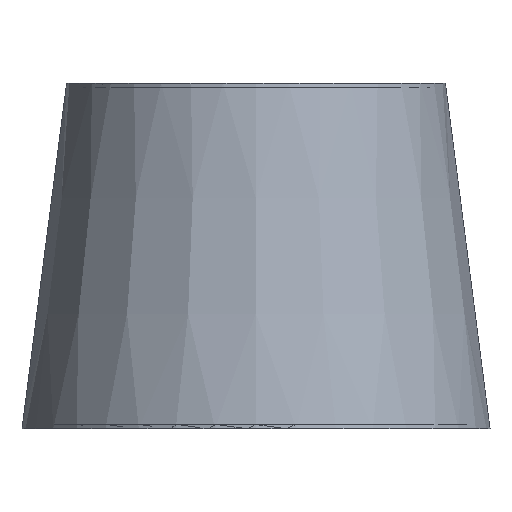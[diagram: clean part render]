
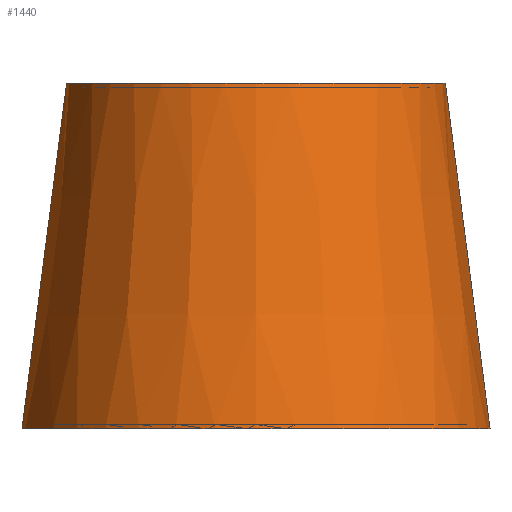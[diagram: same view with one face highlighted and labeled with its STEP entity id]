
A CAD part, front view. The second image highlights one B-rep face of the part: STEP entity #1440.
In plain terms, the highlighted conical face has half-angle 7.352 degrees and reference radius 39.006 mm.
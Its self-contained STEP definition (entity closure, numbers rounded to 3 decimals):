
#18=CONICAL_SURFACE('',#1560,39.006,0.128);
#202=FACE_OUTER_BOUND('',#288,.T.);
#288=EDGE_LOOP('',(#1209,#1210,#1211,#1212));
#337=CIRCLE('',#1501,210.);
#363=CIRCLE('',#1561,170.);
#465=LINE('',#3069,#571);
#466=LINE('',#3072,#572);
#571=VECTOR('',#1870,1.);
#572=VECTOR('',#1873,1.);
#621=VERTEX_POINT('',#2569);
#622=VERTEX_POINT('',#2570);
#709=VERTEX_POINT('',#3068);
#710=VERTEX_POINT('',#3070);
#773=EDGE_CURVE('',#621,#622,#337,.T.);
#901=EDGE_CURVE('',#709,#622,#465,.T.);
#902=EDGE_CURVE('',#710,#709,#363,.T.);
#903=EDGE_CURVE('',#621,#710,#466,.T.);
#1209=ORIENTED_EDGE('',*,*,#901,.F.);
#1210=ORIENTED_EDGE('',*,*,#902,.F.);
#1211=ORIENTED_EDGE('',*,*,#903,.F.);
#1212=ORIENTED_EDGE('',*,*,#773,.T.);
#1440=ADVANCED_FACE('',(#202),#18,.T.);
#1501=AXIS2_PLACEMENT_3D('',#2571,#1674,#1675);
#1560=AXIS2_PLACEMENT_3D('',#3067,#1868,#1869);
#1561=AXIS2_PLACEMENT_3D('',#3071,#1871,#1872);
#1674=DIRECTION('center_axis',(0.,0.,1.));
#1675=DIRECTION('ref_axis',(1.,-0.001,0.));
#1868=DIRECTION('center_axis',(0.,0.,-1.));
#1869=DIRECTION('ref_axis',(1.,-0.001,0.));
#1870=DIRECTION('',(0.128,0.,-0.992));
#1871=DIRECTION('center_axis',(0.,0.,1.));
#1872=DIRECTION('ref_axis',(1.,-0.001,0.));
#1873=DIRECTION('',(0.128,0.,0.992));
#2569=CARTESIAN_POINT('',(-210.,0.228,0.));
#2570=CARTESIAN_POINT('',(210.,-0.228,0.));
#2571=CARTESIAN_POINT('Origin',(0.,0.,0.));
#3067=CARTESIAN_POINT('Origin',(0.,0.,1325.206));
#3068=CARTESIAN_POINT('',(170.,-0.184,310.));
#3069=CARTESIAN_POINT('',(170.,-0.184,310.));
#3070=CARTESIAN_POINT('',(-170.,0.184,310.));
#3071=CARTESIAN_POINT('Origin',(0.,0.,310.));
#3072=CARTESIAN_POINT('',(-210.,0.228,0.));
